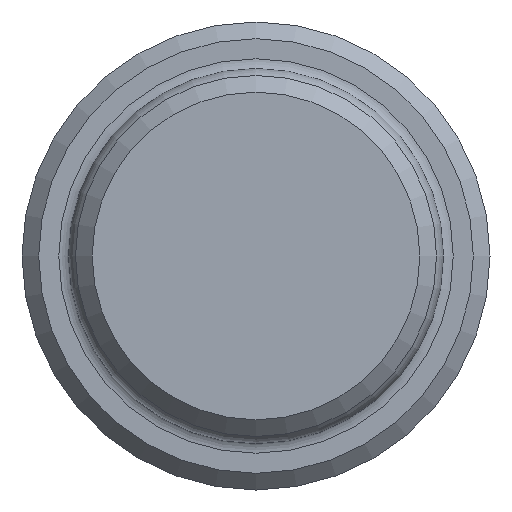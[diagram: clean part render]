
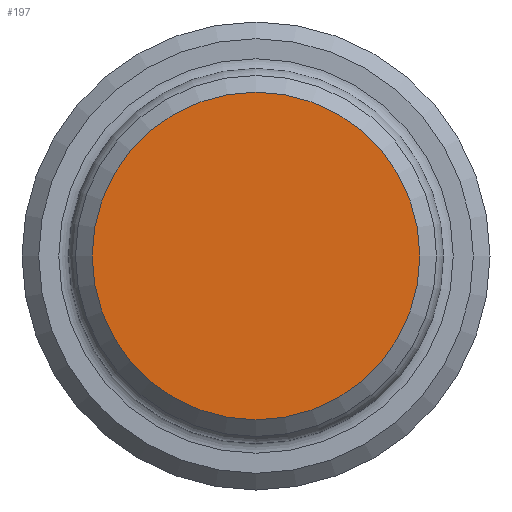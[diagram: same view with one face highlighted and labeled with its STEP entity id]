
A CAD part, front view. The second image highlights one B-rep face of the part: STEP entity #197.
In plain terms, the highlighted planar face has unit normal (0, -1, 0).
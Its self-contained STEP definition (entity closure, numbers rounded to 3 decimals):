
#31 = FACE_OUTER_BOUND ( 'NONE', #122, .T. ) ;
#76 = VERTEX_POINT ( 'NONE', #275 ) ;
#104 = ORIENTED_EDGE ( 'NONE', *, *, #412, .T. ) ;
#122 = EDGE_LOOP ( 'NONE', ( #104 ) ) ;
#170 = CIRCLE ( 'NONE', #440, 4.9 ) ;
#197 = ADVANCED_FACE ( 'NONE', ( #31 ), #224, .F. ) ;
#213 = DIRECTION ( 'NONE',  ( -1., 0., 0. ) ) ;
#214 = DIRECTION ( 'NONE',  ( 0., -1., 0. ) ) ;
#223 = CARTESIAN_POINT ( 'NONE',  ( -5.4, -6., 0. ) ) ;
#224 = PLANE ( 'NONE',  #428 ) ;
#226 = DIRECTION ( 'NONE',  ( 0., 1., 0. ) ) ;
#227 = DIRECTION ( 'NONE',  ( -1., 0., 0. ) ) ;
#275 = CARTESIAN_POINT ( 'NONE',  ( -4.9, -6., 0. ) ) ;
#317 = CARTESIAN_POINT ( 'NONE',  ( 0., -6., 0. ) ) ;
#412 = EDGE_CURVE ( 'NONE', #76, #76, #170, .T. ) ;
#428 = AXIS2_PLACEMENT_3D ( 'NONE', #223, #226, #227 ) ;
#440 = AXIS2_PLACEMENT_3D ( 'NONE', #317, #214, #213 ) ;
